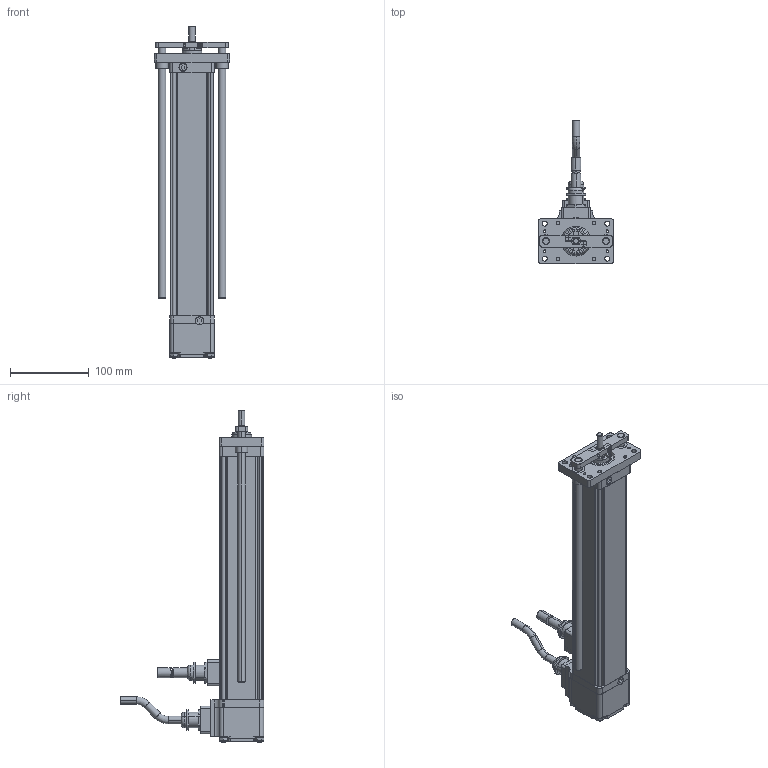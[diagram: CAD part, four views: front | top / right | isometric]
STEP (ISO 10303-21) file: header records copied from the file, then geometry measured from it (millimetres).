
FILE_DESCRIPTION (( 'STEP AP214' ), '1' );
FILE_NAME ('41563.STEP', '2009-05-20T20:20:50', ( ' ' ), ( '' ), 'SwSTEP 2.0', 'SolidWorks 2009', '' );
FILE_SCHEMA (( 'AUTOMOTIVE_DESIGN' ));
Length unit declared in the file: inch
Products named in the file (1): 41563
Bounding box: 95.25 x 182.76 x 421.51 mm (x, y, z)
Volume: 656101.8 mm3; surface area: 284567.6 mm2
Topology: 41 solids, 41 shells, 1466 faces, 3365 edges, 2021 vertices
Faces by surface type: cylinder 569, plane 436, cone 411, torus 36, bspline 14
Entity records: 63421 total; most frequent: CARTESIAN_POINT 10335, DIRECTION 7367, ORIENTED_EDGE 6618, EDGE_CURVE 3309, AXIS2_PLACEMENT_3D 2878, VERTEX_POINT 2021, EDGE_LOOP 1694, VECTOR 1611
